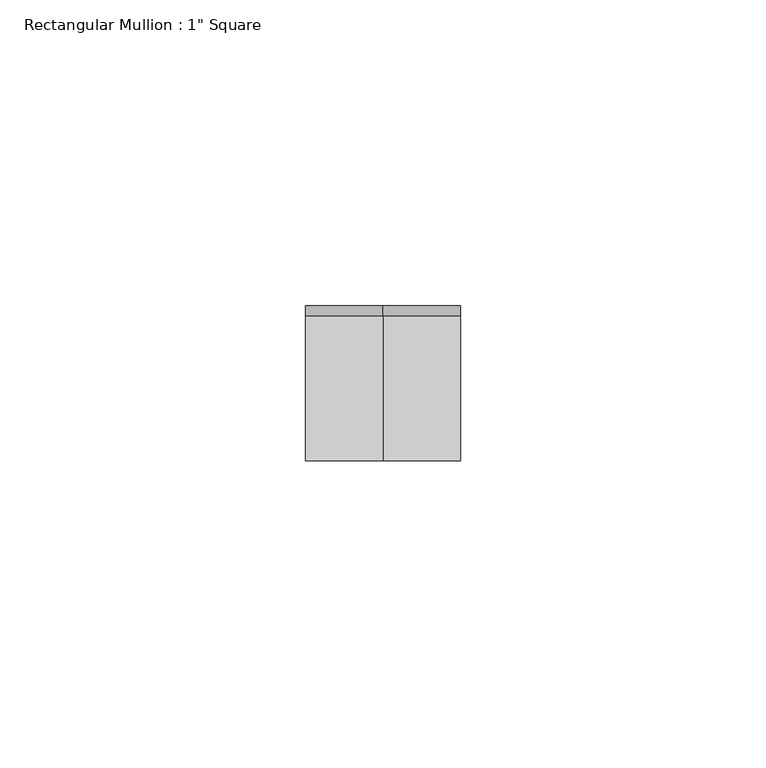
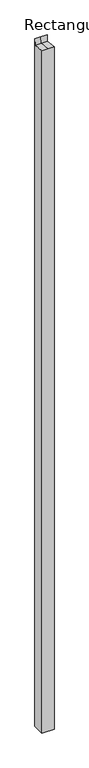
"""IFC4 building model written with IfcOpenShell, lengths in millimetres: member geometry."""

from ifc_helpers import new_model, si_unit, origin, place, context, project, spatial, faceted_brep, source, transform, mapped, element, save


def member_fef64646(model_context):
    return source(origin(), model_context, "Body", "Brep", [
        faceted_brep([(12.7, 12.7, -1511.3), (12.7, -12.7, -1511.3), (-12.7, -12.7, -1511.3), (-12.7, 12.7, -1511.3), (-12.7, 12.7, 11.903125), (0.0, 12.7, 11.903125), (12.7, 12.7, 11.903125), (-12.7, -12.7, 1.4996528), (-12.7, 11.0128906, -1.4878906), (12.7, -12.7, 1.4996528), (0.0, -12.7, 1.4996528), (12.7, 11.0128906, -1.4878906), (0.0, 11.0128906, -1.4878906)], [[[0, 1, 2, 3]], [[4, 5, 6, 0, 3]], [[7, 8, 4, 3, 2]], [[9, 10, 7, 2, 1]], [[6, 11, 9, 1, 0]], [[6, 5, 12, 11]], [[5, 4, 8, 12]], [[8, 7, 10, 12]], [[10, 9, 11, 12]]]),
    ])


if __name__ == "__main__":
    model = new_model("IFC4")
    model_context = context("Model", 3, world=origin())
    ifc_project = project(units=[si_unit("LENGTHUNIT", "METRE", prefix="MILLI")], contexts=[model_context])
    site = spatial("IfcSite", under=ifc_project)
    building = spatial("IfcBuilding", under=site)
    placement = place(None, origin())
    member_shape = member_fef64646(model_context)
    element("IfcMember", 1, ObjectType="Rectangular Mullion : 1\" Square", at=placement, inside=building, context=model_context, shape_type="MappedRepresentation", body=[
        mapped(member_shape, transform((0.0, 0.0, 0.0), x_axis=(1.0, 0.0, 0.0), y_axis=(0.0, 1.0, 0.0), z_axis=(0.0, 0.0, 1.0))),
    ])
    save(model, "model.ifc")
